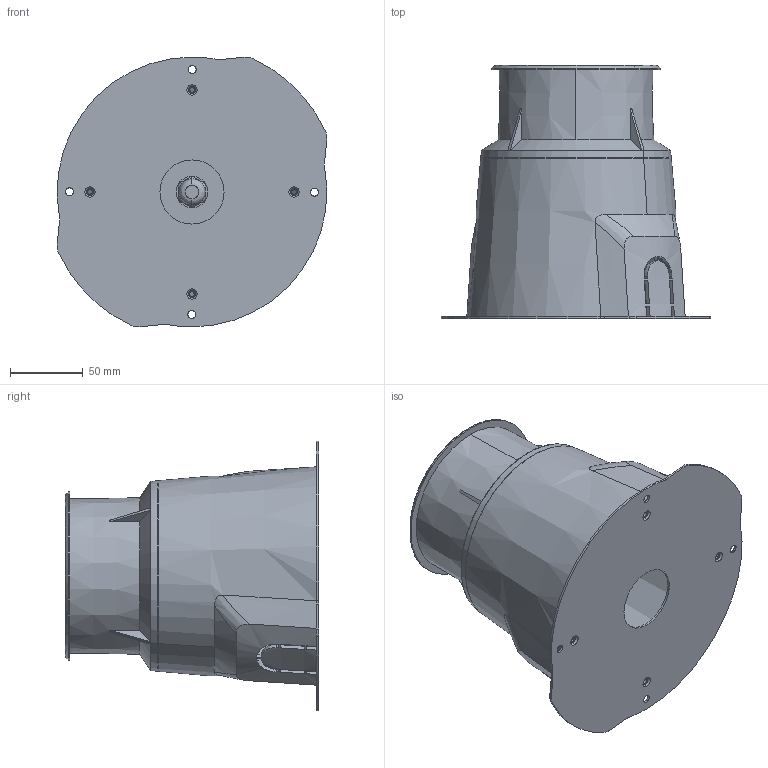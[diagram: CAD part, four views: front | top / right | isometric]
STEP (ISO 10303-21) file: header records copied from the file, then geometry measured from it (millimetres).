
FILE_DESCRIPTION((''),'2;1');
FILE_NAME('ZSXB2DFR0125-_ASM','2024-08-30T14:22:12',('C029'),(''),'CREO PARAMETRIC BY PTC INC, 2021063','CREO PARAMETRIC BY PTC INC, 2021063','');
FILE_SCHEMA(('CONFIG_CONTROL_DESIGN'));
Length unit declared in the file: millimetre
Products named in the file (43): 2DF-CG-FSD_1_1_2; 2DF-DT_3_1_2; 2BC-KTG-Z-Z_1_1_2; 2DF____1_1_2; PRODUCT_89191_1_1_2; YUAN_TOU_JING_ZJ_ASM_2_ASM_1_AS_ASM; 2BC-SRT_31_1_2; TOU_JING_DI_ZOU_D34_12_1_2; TOU_JING_D34_11_1_2; ICRPS0401_2_1_2; TOU_JING_D34_H15_11_1_2; TOU_JING_ZJ_D34_ASM_17_ASM_1_AS_ASM; 2DF_FWZ_D44_11_1_2; 2DF_SRLB_16_1_2; ISO7045-M3X6-4_8_1_1_2; ICRFC0404_3_1_2; TOUJING_YA_QUAN_D35_4_1_2; COB____2DF_ASM_33_ASM_1_ASM_2_ASM; 2FT-MGVENU_1_4_1_2; M4-12-BEI-TOU-LS_1_3_1_2; 2BC-GDJ_1_1_2; 2DF-KDP_1_1_2; PG9_1_1_3_1_2; 2DF___57_2_1_2; 2DF_____ASM_2_ASM_1_ASM_2_ASM; 2FU-FSTVENU_1_3_1_2; XJQ_1_1_2; M12_1_1_2; XL-111-MZH_1_1_2; 2_1_1_2; 2DH-HG_1_2_1_2; 2DF-LM-CG_1_1_2; 2FU-BOLIVENU_1_6_1_2; M3_1_1_2_1_2; 2DH-HG-FST_1_3_1_2; ICRFC0506_3_1_2; FX2DF0156_ASM_43_ASM_1_ASM_2_ASM; 2CA-2019-12-270001_4; 8_2DF-_M4_-_11-19_0001_2; 2EE_A-5_5_8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
Assembly tree (53 placements, depth 5):
  ZSXB2DFR0125-_ASM
    FX2DF0156_ASM_43_ASM_1_ASM_2_ASM
      2DF-CG-FSD_1_1_2
      2DF-DT_3_1_2
      COB____2DF_ASM_33_ASM_1_ASM_2_ASM
        2BC-KTG-Z-Z_1_1_2
        YUAN_TOU_JING_ZJ_ASM_2_ASM_1_AS_ASM
          2DF____1_1_2
          PRODUCT_89191_1_1_2
        2BC-SRT_31_1_2
        TOU_JING_ZJ_D34_ASM_17_ASM_1_AS_ASM
          TOU_JING_DI_ZOU_D34_12_1_2
          TOU_JING_D34_11_1_2
          ICRPS0401_2_1_2  x2
          TOU_JING_D34_H15_11_1_2
        2DF_FWZ_D44_11_1_2
        2DF_SRLB_16_1_2
        ISO7045-M3X6-4_8_1_1_2  x2
        ICRFC0404_3_1_2  x2
        TOUJING_YA_QUAN_D35_4_1_2
      2FT-MGVENU_1_4_1_2
      M4-12-BEI-TOU-LS_1_3_1_2  x4
      2BC-GDJ_1_1_2
      2DF-KDP_1_1_2
      PG9_1_1_3_1_2
      2DF_____ASM_2_ASM_1_ASM_2_ASM
        2DF___57_2_1_2
      2FU-FSTVENU_1_3_1_2
      XJQ_1_1_2
      M12_1_1_2
      XL-111-MZH_1_1_2
      2_1_1_2  x2
      2DH-HG_1_2_1_2
      2DF-LM-CG_1_1_2
      2FU-BOLIVENU_1_6_1_2
      M3_1_1_2_1_2  x4
      2DH-HG-FST_1_3_1_2
      ICRFC0506_3_1_2  x2
    B09000_ASM
      2_0001_ASM_14_ASM
        2CA-2019-12-270001_4
        8_2DF-_M4_-_11-19_0001_2
        2EE_A-5_5_8
Bounding box: 184.96 x 173.7 x 185 mm (x, y, z)
Volume: 524380.1 mm3; surface area: 405132.7 mm2
Topology: 46 solids, 46 shells, 4887 faces, 13643 edges, 8985 vertices
Faces by surface type: plane 3181, cylinder 846, cone 288, extrusion 286, bspline 134, torus 118, sphere 34
Entity records: 176144 total; most frequent: CARTESIAN_POINT 56999, ORIENTED_EDGE 25586, DIRECTION 22663, EDGE_CURVE 12793, VECTOR 9103, LINE 8817, VERTEX_POINT 8539, AXIS2_PLACEMENT_3D 6780
